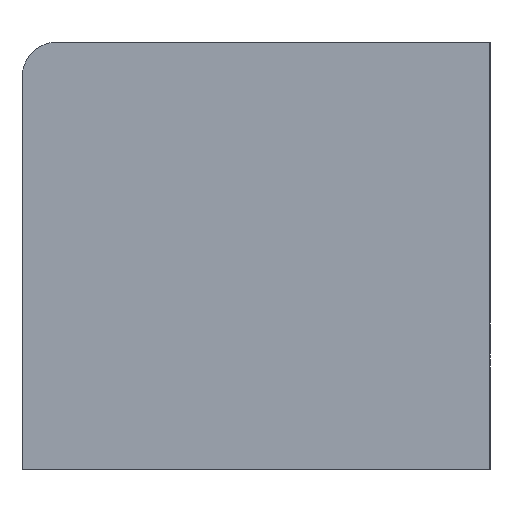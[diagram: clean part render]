
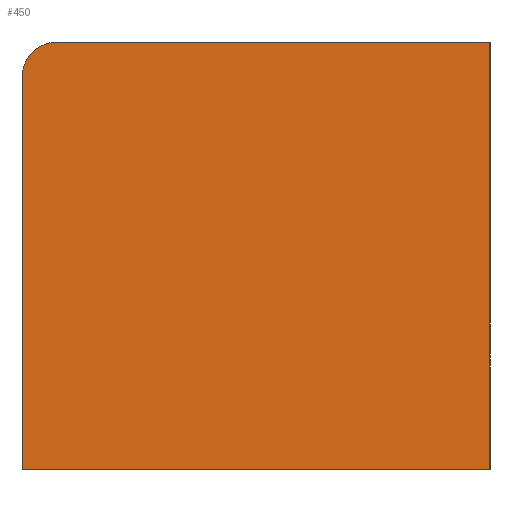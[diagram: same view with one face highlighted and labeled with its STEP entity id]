
A CAD part, left-side view. The second image highlights one B-rep face of the part: STEP entity #450.
In plain terms, the highlighted planar face has unit normal (-1, 0, 0).
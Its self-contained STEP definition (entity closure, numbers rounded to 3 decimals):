
#233=CARTESIAN_POINT('Vertex',(0.,0.,85.)) ;
#236=CARTESIAN_POINT('Line Origine',(0.,0.,42.5)) ;
#240=CARTESIAN_POINT('Vertex',(0.,0.,0.)) ;
#329=CARTESIAN_POINT('Vertex',(0.,93.,0.)) ;
#332=CARTESIAN_POINT('Line Origine',(0.,93.,39.)) ;
#336=CARTESIAN_POINT('Vertex',(0.,93.,78.)) ;
#396=CARTESIAN_POINT('Line Origine',(0.,46.5,0.)) ;
#414=CARTESIAN_POINT('Axis2P3D Location',(0.,86.,78.)) ;
#418=CARTESIAN_POINT('Vertex',(0.,86.,85.)) ;
#433=CARTESIAN_POINT('Axis2P3D Location',(0.,93.,0.)) ;
#438=CARTESIAN_POINT('Line Origine',(0.,43.,85.)) ;
#237=DIRECTION('Vector Direction',(0.,0.,1.)) ;
#333=DIRECTION('Vector Direction',(0.,0.,1.)) ;
#397=DIRECTION('Vector Direction',(0.,-1.,0.)) ;
#415=DIRECTION('Axis2P3D Direction',(-1.,0.,0.)) ;
#434=DIRECTION('Axis2P3D Direction',(-1.,0.,0.)) ;
#435=DIRECTION('Axis2P3D XDirection',(0.,-1.,0.)) ;
#439=DIRECTION('Vector Direction',(0.,1.,0.)) ;
#416=AXIS2_PLACEMENT_3D('Circle Axis2P3D',#414,#415,$) ;
#436=AXIS2_PLACEMENT_3D('Plane Axis2P3D',#433,#434,#435) ;
#444=ORIENTED_EDGE('',*,*,#242,.T.) ;
#445=ORIENTED_EDGE('',*,*,#442,.T.) ;
#446=ORIENTED_EDGE('',*,*,#420,.T.) ;
#447=ORIENTED_EDGE('',*,*,#338,.F.) ;
#448=ORIENTED_EDGE('',*,*,#400,.T.) ;
#238=VECTOR('Line Direction',#237,1.) ;
#334=VECTOR('Line Direction',#333,1.) ;
#398=VECTOR('Line Direction',#397,1.) ;
#440=VECTOR('Line Direction',#439,1.) ;
#450=ADVANCED_FACE('PartBody',(#449),#437,.T.) ;
#417=CIRCLE('generated circle',#416,7.) ;
#242=EDGE_CURVE('',#241,#234,#239,.T.) ;
#338=EDGE_CURVE('',#330,#337,#335,.T.) ;
#400=EDGE_CURVE('',#330,#241,#399,.T.) ;
#420=EDGE_CURVE('',#419,#337,#417,.T.) ;
#442=EDGE_CURVE('',#234,#419,#441,.T.) ;
#443=EDGE_LOOP('',(#444,#445,#446,#447,#448)) ;
#449=FACE_OUTER_BOUND('',#443,.T.) ;
#239=LINE('Line',#236,#238) ;
#335=LINE('Line',#332,#334) ;
#399=LINE('Line',#396,#398) ;
#441=LINE('Line',#438,#440) ;
#437=PLANE('',#436) ;
#234=VERTEX_POINT('',#233) ;
#241=VERTEX_POINT('',#240) ;
#330=VERTEX_POINT('',#329) ;
#337=VERTEX_POINT('',#336) ;
#419=VERTEX_POINT('',#418) ;
